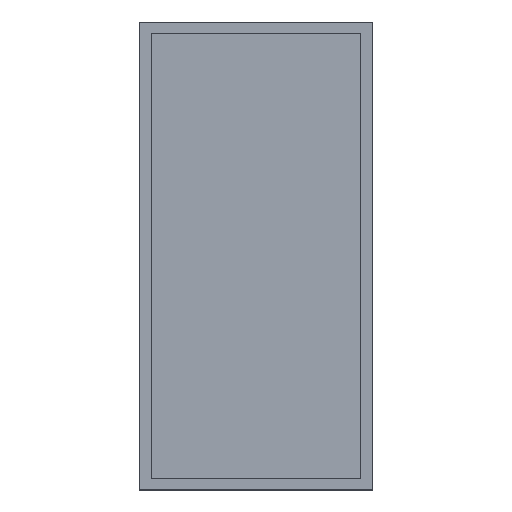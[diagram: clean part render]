
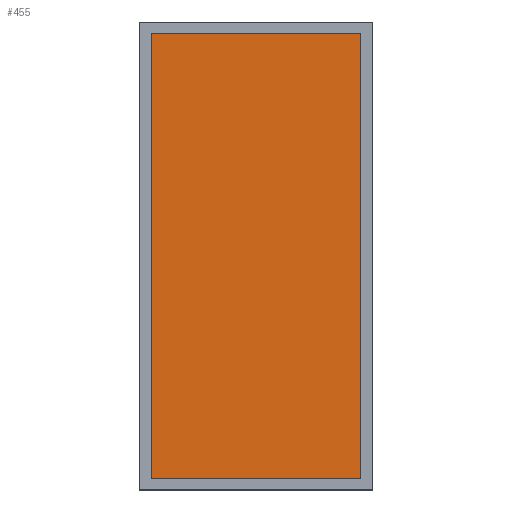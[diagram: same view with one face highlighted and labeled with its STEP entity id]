
A CAD part, top view. The second image highlights one B-rep face of the part: STEP entity #455.
In plain terms, the highlighted planar face has unit normal (0, 0, 1).
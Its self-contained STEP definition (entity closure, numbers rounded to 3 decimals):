
#33=FACE_OUTER_BOUND('',#61,.T.);
#61=EDGE_LOOP('',(#348,#349,#350,#351));
#110=LINE('',#710,#170);
#111=LINE('',#712,#171);
#112=LINE('',#714,#172);
#113=LINE('',#715,#173);
#170=VECTOR('',#587,10.);
#171=VECTOR('',#588,10.);
#172=VECTOR('',#589,10.);
#173=VECTOR('',#590,10.);
#216=VERTEX_POINT('',#708);
#217=VERTEX_POINT('',#709);
#218=VERTEX_POINT('',#711);
#219=VERTEX_POINT('',#713);
#266=EDGE_CURVE('',#216,#217,#110,.T.);
#267=EDGE_CURVE('',#218,#216,#111,.T.);
#268=EDGE_CURVE('',#219,#218,#112,.T.);
#269=EDGE_CURVE('',#217,#219,#113,.T.);
#348=ORIENTED_EDGE('',*,*,#266,.F.);
#349=ORIENTED_EDGE('',*,*,#267,.F.);
#350=ORIENTED_EDGE('',*,*,#268,.F.);
#351=ORIENTED_EDGE('',*,*,#269,.F.);
#427=PLANE('',#506);
#455=ADVANCED_FACE('',(#33),#427,.F.);
#506=AXIS2_PLACEMENT_3D('',#707,#585,#586);
#585=DIRECTION('center_axis',(0.,0.,-1.));
#586=DIRECTION('ref_axis',(-1.,0.,0.));
#587=DIRECTION('',(1.,0.,0.));
#588=DIRECTION('',(0.,1.,0.));
#589=DIRECTION('',(-1.,0.,0.));
#590=DIRECTION('',(0.,-1.,0.));
#707=CARTESIAN_POINT('Origin',(0.,0.,
0.));
#708=CARTESIAN_POINT('',(-267.5,567.5,0.));
#709=CARTESIAN_POINT('',(267.5,567.5,0.));
#710=CARTESIAN_POINT('',(-267.5,567.5,0.));
#711=CARTESIAN_POINT('',(-267.5,-567.5,0.));
#712=CARTESIAN_POINT('',(-267.5,-567.5,0.));
#713=CARTESIAN_POINT('',(267.5,-567.5,0.));
#714=CARTESIAN_POINT('',(267.5,-567.5,0.));
#715=CARTESIAN_POINT('',(267.5,567.5,0.));
